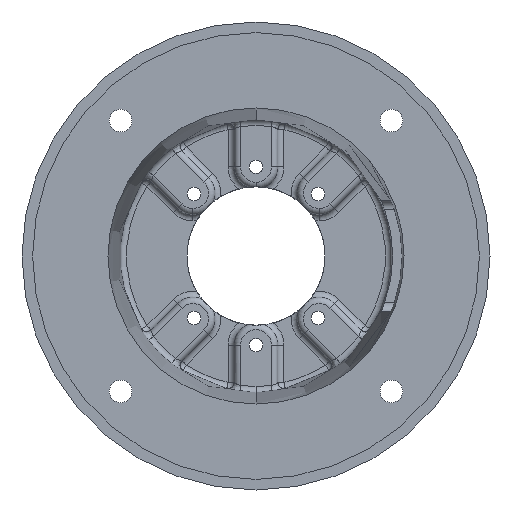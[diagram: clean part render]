
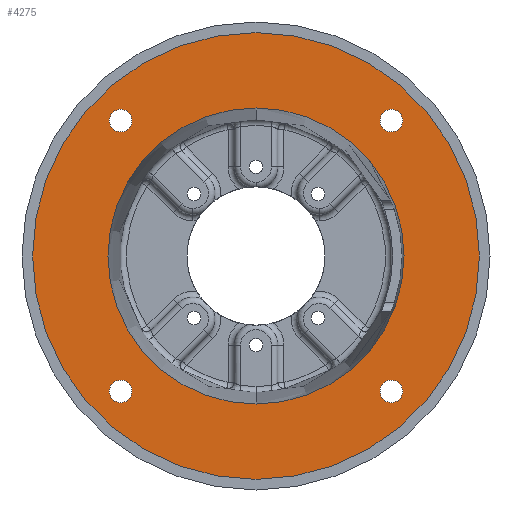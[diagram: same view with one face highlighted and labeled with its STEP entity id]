
A CAD part, front view. The second image highlights one B-rep face of the part: STEP entity #4275.
In plain terms, the highlighted planar face has unit normal (0, -1, 0).
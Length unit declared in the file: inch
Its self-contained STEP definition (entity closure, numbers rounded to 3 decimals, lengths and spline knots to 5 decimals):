
#944 = VERTEX_POINT ( 'NONE', #4869 ) ;
#959 = EDGE_CURVE ( 'NONE', #1053, #1020, #4899, .T. ) ;
#978 = VERTEX_POINT ( 'NONE', #4983 ) ;
#1017 = VERTEX_POINT ( 'NONE', #5031 ) ;
#1020 = VERTEX_POINT ( 'NONE', #5030 ) ;
#1022 = VERTEX_POINT ( 'NONE', #5024 ) ;
#1029 = VERTEX_POINT ( 'NONE', #5075 ) ;
#1031 = EDGE_CURVE ( 'NONE', #1041, #1033, #5074, .T. ) ;
#1033 = VERTEX_POINT ( 'NONE', #5069 ) ;
#1034 = VERTEX_POINT ( 'NONE', #5068 ) ;
#1035 = EDGE_CURVE ( 'NONE', #1034, #1029, #5067, .T. ) ;
#1041 = VERTEX_POINT ( 'NONE', #5048 ) ;
#1053 = VERTEX_POINT ( 'NONE', #5089 ) ;
#1059 = EDGE_CURVE ( 'NONE', #1017, #944, #5133, .T. ) ;
#1106 = EDGE_CURVE ( 'NONE', #978, #1022, #5215, .T. ) ;
#1826 = VERTEX_POINT ( 'NONE', #7086 ) ;
#1887 = EDGE_CURVE ( 'NONE', #1888, #1826, #7350, .T. ) ;
#1888 = VERTEX_POINT ( 'NONE', #7346 ) ;
#1984 = EDGE_CURVE ( 'NONE', #1826, #1888, #7681, .T. ) ;
#4275 = ADVANCED_FACE ( 'NONE', ( #14455, #14454, #14453, #14452, #14451, #14450 ), #14459, .T. ) ;
#4276 = EDGE_LOOP ( 'NONE', ( #4277, #4279 ) ) ;
#4277 = ORIENTED_EDGE ( 'NONE', *, *, #4278, .F. ) ;
#4278 = EDGE_CURVE ( 'NONE', #944, #1017, #14445, .T. ) ;
#4279 = ORIENTED_EDGE ( 'NONE', *, *, #1059, .F. ) ;
#4280 = EDGE_LOOP ( 'NONE', ( #4281, #4332 ) ) ;
#4281 = ORIENTED_EDGE ( 'NONE', *, *, #4331, .F. ) ;
#4317 = EDGE_CURVE ( 'NONE', #1029, #1034, #14471, .T. ) ;
#4318 = ORIENTED_EDGE ( 'NONE', *, *, #1035, .T. ) ;
#4319 = EDGE_LOOP ( 'NONE', ( #4320, #4321 ) ) ;
#4320 = ORIENTED_EDGE ( 'NONE', *, *, #1887, .T. ) ;
#4321 = ORIENTED_EDGE ( 'NONE', *, *, #1984, .T. ) ;
#4331 = EDGE_CURVE ( 'NONE', #1020, #1053, #14518, .T. ) ;
#4332 = ORIENTED_EDGE ( 'NONE', *, *, #959, .F. ) ;
#4333 = EDGE_LOOP ( 'NONE', ( #4334, #4336 ) ) ;
#4334 = ORIENTED_EDGE ( 'NONE', *, *, #4335, .F. ) ;
#4335 = EDGE_CURVE ( 'NONE', #1022, #978, #14514, .T. ) ;
#4336 = ORIENTED_EDGE ( 'NONE', *, *, #1106, .F. ) ;
#4337 = EDGE_LOOP ( 'NONE', ( #4338, #4340 ) ) ;
#4338 = ORIENTED_EDGE ( 'NONE', *, *, #4339, .F. ) ;
#4339 = EDGE_CURVE ( 'NONE', #1033, #1041, #14509, .T. ) ;
#4340 = ORIENTED_EDGE ( 'NONE', *, *, #1031, .F. ) ;
#4341 = EDGE_LOOP ( 'NONE', ( #4342, #4318 ) ) ;
#4342 = ORIENTED_EDGE ( 'NONE', *, *, #4317, .T. ) ;
#4869 = CARTESIAN_POINT ( 'NONE',  ( -3.18198, 0.18, 2.91636 ) ) ;
#4895 = DIRECTION ( 'NONE',  ( 0., 0., -1. ) ) ;
#4896 = DIRECTION ( 'NONE',  ( 0., -1., 0. ) ) ;
#4897 = CARTESIAN_POINT ( 'NONE',  ( 3.18198, 0.18, 3.18198 ) ) ;
#4898 = AXIS2_PLACEMENT_3D ( 'NONE', #4897, #4896, #4895 ) ;
#4899 = CIRCLE ( 'NONE', #4898, 0.26562 ) ;
#4983 = CARTESIAN_POINT ( 'NONE',  ( 3.18198, 0.18, -2.91636 ) ) ;
#5024 = CARTESIAN_POINT ( 'NONE',  ( 3.18198, 0.18, -3.44761 ) ) ;
#5030 = CARTESIAN_POINT ( 'NONE',  ( 3.18198, 0.18, 2.91636 ) ) ;
#5031 = CARTESIAN_POINT ( 'NONE',  ( -3.18198, 0.18, 3.44761 ) ) ;
#5048 = CARTESIAN_POINT ( 'NONE',  ( -3.18198, 0.18, -2.91636 ) ) ;
#5063 = DIRECTION ( 'NONE',  ( 0., 0., -1. ) ) ;
#5064 = DIRECTION ( 'NONE',  ( 0., -1., 0. ) ) ;
#5065 = CARTESIAN_POINT ( 'NONE',  ( 0., 0.18, 0. ) ) ;
#5066 = AXIS2_PLACEMENT_3D ( 'NONE', #5065, #5064, #5063 ) ;
#5067 = CIRCLE ( 'NONE', #5066, 5.2505 ) ;
#5068 = CARTESIAN_POINT ( 'NONE',  ( 0., 0.18, 5.2505 ) ) ;
#5069 = CARTESIAN_POINT ( 'NONE',  ( -3.18198, 0.18, -3.44761 ) ) ;
#5070 = DIRECTION ( 'NONE',  ( 0., 0., -1. ) ) ;
#5071 = DIRECTION ( 'NONE',  ( 0., -1., 0. ) ) ;
#5072 = CARTESIAN_POINT ( 'NONE',  ( -3.18198, 0.18, -3.18198 ) ) ;
#5073 = AXIS2_PLACEMENT_3D ( 'NONE', #5072, #5071, #5070 ) ;
#5074 = CIRCLE ( 'NONE', #5073, 0.26562 ) ;
#5075 = CARTESIAN_POINT ( 'NONE',  ( 0., 0.18, -5.2505 ) ) ;
#5089 = CARTESIAN_POINT ( 'NONE',  ( 3.18198, 0.18, 3.44761 ) ) ;
#5129 = DIRECTION ( 'NONE',  ( 0., 0., -1. ) ) ;
#5130 = DIRECTION ( 'NONE',  ( 0., -1., 0. ) ) ;
#5131 = CARTESIAN_POINT ( 'NONE',  ( -3.18198, 0.18, 3.18198 ) ) ;
#5132 = AXIS2_PLACEMENT_3D ( 'NONE', #5131, #5130, #5129 ) ;
#5133 = CIRCLE ( 'NONE', #5132, 0.26562 ) ;
#5211 = DIRECTION ( 'NONE',  ( 0., 0., -1. ) ) ;
#5212 = DIRECTION ( 'NONE',  ( 0., -1., 0. ) ) ;
#5213 = CARTESIAN_POINT ( 'NONE',  ( 3.18198, 0.18, -3.18198 ) ) ;
#5214 = AXIS2_PLACEMENT_3D ( 'NONE', #5213, #5212, #5211 ) ;
#5215 = CIRCLE ( 'NONE', #5214, 0.26562 ) ;
#7086 = CARTESIAN_POINT ( 'NONE',  ( 0., 0.18, 3.47973 ) ) ;
#7322 = CARTESIAN_POINT ( 'NONE',  ( 0., 0.18, 0. ) ) ;
#7346 = CARTESIAN_POINT ( 'NONE',  ( 0., 0.18, -3.47973 ) ) ;
#7347 = DIRECTION ( 'NONE',  ( 0., 0., -1. ) ) ;
#7348 = DIRECTION ( 'NONE',  ( 0., 1., 0. ) ) ;
#7349 = AXIS2_PLACEMENT_3D ( 'NONE', #7322, #7348, #7347 ) ;
#7350 = CIRCLE ( 'NONE', #7349, 3.47973 ) ;
#7679 = DIRECTION ( 'NONE',  ( 0., 1., 0. ) ) ;
#7680 = AXIS2_PLACEMENT_3D ( 'NONE', #7713, #7679, #7711 ) ;
#7681 = CIRCLE ( 'NONE', #7680, 3.47973 ) ;
#7711 = DIRECTION ( 'NONE',  ( 0., 0., -1. ) ) ;
#7713 = CARTESIAN_POINT ( 'NONE',  ( 0., 0.18, 0. ) ) ;
#14441 = DIRECTION ( 'NONE',  ( 0., 0., -1. ) ) ;
#14442 = DIRECTION ( 'NONE',  ( 0., -1., 0. ) ) ;
#14443 = CARTESIAN_POINT ( 'NONE',  ( -3.18198, 0.18, 3.18198 ) ) ;
#14444 = AXIS2_PLACEMENT_3D ( 'NONE', #14443, #14442, #14441 ) ;
#14445 = CIRCLE ( 'NONE', #14444, 0.26562 ) ;
#14446 = DIRECTION ( 'NONE',  ( 0., 0., -1. ) ) ;
#14447 = DIRECTION ( 'NONE',  ( 0., -1., 0. ) ) ;
#14448 = CARTESIAN_POINT ( 'NONE',  ( 0., 0.18, 0. ) ) ;
#14449 = AXIS2_PLACEMENT_3D ( 'NONE', #14448, #14447, #14446 ) ;
#14450 = FACE_BOUND ( 'NONE', #4319, .T. ) ;
#14451 = FACE_OUTER_BOUND ( 'NONE', #4341, .T. ) ;
#14452 = FACE_BOUND ( 'NONE', #4337, .T. ) ;
#14453 = FACE_BOUND ( 'NONE', #4333, .T. ) ;
#14454 = FACE_BOUND ( 'NONE', #4280, .T. ) ;
#14455 = FACE_BOUND ( 'NONE', #4276, .T. ) ;
#14459 = PLANE ( 'NONE',  #14449 ) ;
#14468 = DIRECTION ( 'NONE',  ( 0., 0., -1. ) ) ;
#14469 = DIRECTION ( 'NONE',  ( 0., -1., 0. ) ) ;
#14470 = AXIS2_PLACEMENT_3D ( 'NONE', #14475, #14469, #14468 ) ;
#14471 = CIRCLE ( 'NONE', #14470, 5.2505 ) ;
#14475 = CARTESIAN_POINT ( 'NONE',  ( 0., 0.18, 0. ) ) ;
#14505 = DIRECTION ( 'NONE',  ( 0., 0., -1. ) ) ;
#14506 = DIRECTION ( 'NONE',  ( 0., -1., 0. ) ) ;
#14507 = CARTESIAN_POINT ( 'NONE',  ( -3.18198, 0.18, -3.18198 ) ) ;
#14508 = AXIS2_PLACEMENT_3D ( 'NONE', #14507, #14506, #14505 ) ;
#14509 = CIRCLE ( 'NONE', #14508, 0.26562 ) ;
#14510 = DIRECTION ( 'NONE',  ( 0., 0., -1. ) ) ;
#14511 = DIRECTION ( 'NONE',  ( 0., -1., 0. ) ) ;
#14512 = CARTESIAN_POINT ( 'NONE',  ( 3.18198, 0.18, -3.18198 ) ) ;
#14513 = AXIS2_PLACEMENT_3D ( 'NONE', #14512, #14511, #14510 ) ;
#14514 = CIRCLE ( 'NONE', #14513, 0.26562 ) ;
#14515 = DIRECTION ( 'NONE',  ( 0., 0., -1. ) ) ;
#14516 = DIRECTION ( 'NONE',  ( 0., -1., 0. ) ) ;
#14517 = AXIS2_PLACEMENT_3D ( 'NONE', #14523, #14516, #14515 ) ;
#14518 = CIRCLE ( 'NONE', #14517, 0.26562 ) ;
#14523 = CARTESIAN_POINT ( 'NONE',  ( 3.18198, 0.18, 3.18198 ) ) ;
